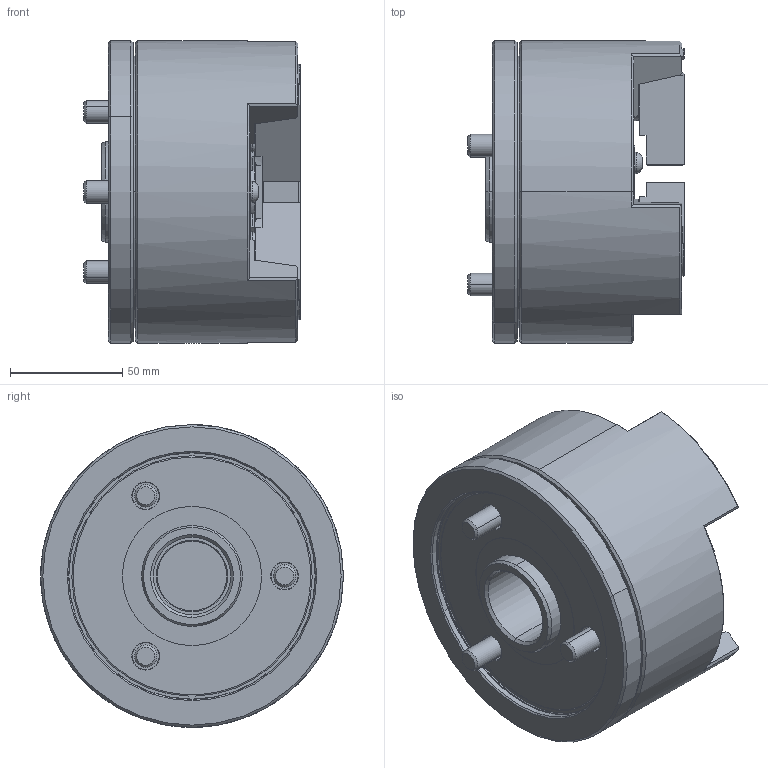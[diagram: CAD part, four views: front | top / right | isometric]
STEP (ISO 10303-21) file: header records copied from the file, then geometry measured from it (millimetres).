
FILE_DESCRIPTION (( 'STEP AP214' ), '1' );
FILE_NAME ('PUB205_OC.STEP', '2024-10-18T02:25:48', ( '' ), ( '' ), 'SwSTEP 2.0', 'SolidWorks 2022', '' );
FILE_SCHEMA (( 'AUTOMOTIVE_DESIGN' ));
Length unit declared in the file: millimetre
Products named in the file (4): PUB205_OC; 0030108020; DHP-61P298380-0dummy; 61P340355
Assembly tree (7 placements, depth 2):
  PUB205_OC
    61P340355  x3
    0030108020  x3
    DHP-61P298380-0dummy
Bounding box: 96.5 x 135 x 135 mm (x, y, z)
Volume: 906836.4 mm3; surface area: 115296.9 mm2
Topology: 8 solids, 9 shells, 947 faces, 2424 edges, 1550 vertices
Faces by surface type: plane 440, bspline 173, cone 170, cylinder 143, torus 19, sphere 2
Entity records: 38025 total; most frequent: CARTESIAN_POINT 18396, ORIENTED_EDGE 4412, DIRECTION 3306, EDGE_CURVE 2206, VERTEX_POINT 1424, VECTOR 1116, LINE 1116, AXIS2_PLACEMENT_3D 1095
